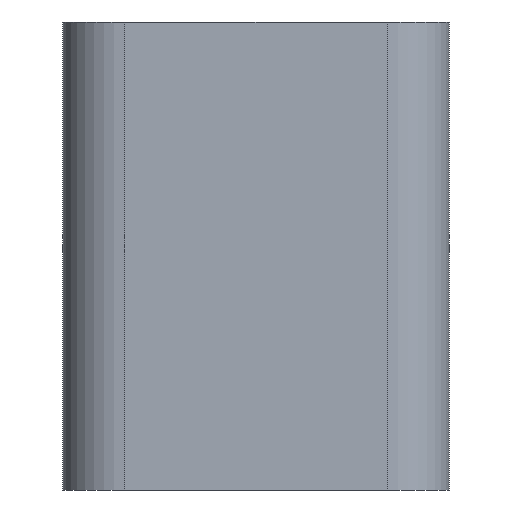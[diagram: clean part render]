
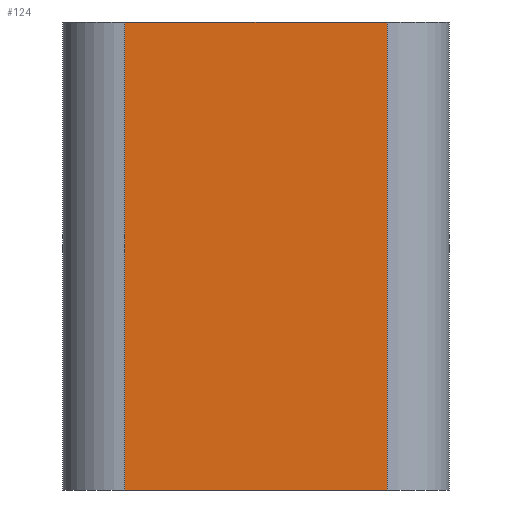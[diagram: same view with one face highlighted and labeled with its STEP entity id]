
A CAD part, front view. The second image highlights one B-rep face of the part: STEP entity #124.
In plain terms, the highlighted planar face has unit normal (0, -1, 0).
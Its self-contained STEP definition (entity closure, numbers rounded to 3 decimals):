
#82 = EDGE_CURVE ( 'NONE', #307, #295, #411, .T. ) ;
#119 = CARTESIAN_POINT ( 'NONE',  ( 6.22, 60.864, 7.5 ) ) ;
#124 = ADVANCED_FACE ( 'NONE', ( #881 ), #451, .F. ) ;
#132 = CARTESIAN_POINT ( 'NONE',  ( 7.22, 60.864, 0. ) ) ;
#156 = VECTOR ( 'NONE', #667, 1000. ) ;
#167 = EDGE_LOOP ( 'NONE', ( #793, #337, #921, #833 ) ) ;
#253 = DIRECTION ( 'NONE',  ( 0., 0., 1. ) ) ;
#295 = VERTEX_POINT ( 'NONE', #581 ) ;
#307 = VERTEX_POINT ( 'NONE', #934 ) ;
#333 = VERTEX_POINT ( 'NONE', #976 ) ;
#337 = ORIENTED_EDGE ( 'NONE', *, *, #82, .T. ) ;
#411 = LINE ( 'NONE', #119, #455 ) ;
#426 = CARTESIAN_POINT ( 'NONE',  ( 7.22, 60.864, 7.5 ) ) ;
#451 = PLANE ( 'NONE',  #764 ) ;
#455 = VECTOR ( 'NONE', #980, 1000. ) ;
#458 = EDGE_CURVE ( 'NONE', #845, #333, #1003, .T. ) ;
#460 = CARTESIAN_POINT ( 'NONE',  ( 2.02, 60.864, 7.5 ) ) ;
#462 = CARTESIAN_POINT ( 'NONE',  ( 7.22, 60.864, 7.5 ) ) ;
#519 = LINE ( 'NONE', #132, #156 ) ;
#520 = EDGE_CURVE ( 'NONE', #845, #295, #665, .T. ) ;
#529 = DIRECTION ( 'NONE',  ( 0., 1., 0. ) ) ;
#581 = CARTESIAN_POINT ( 'NONE',  ( 6.22, 60.864, 7.5 ) ) ;
#623 = DIRECTION ( 'NONE',  ( 0., 0., -1. ) ) ;
#646 = VECTOR ( 'NONE', #779, 1000. ) ;
#665 = LINE ( 'NONE', #426, #646 ) ;
#667 = DIRECTION ( 'NONE',  ( 1., 0., 0. ) ) ;
#764 = AXIS2_PLACEMENT_3D ( 'NONE', #462, #529, #253 ) ;
#779 = DIRECTION ( 'NONE',  ( 1., 0., 0. ) ) ;
#793 = ORIENTED_EDGE ( 'NONE', *, *, #942, .T. ) ;
#833 = ORIENTED_EDGE ( 'NONE', *, *, #458, .T. ) ;
#845 = VERTEX_POINT ( 'NONE', #932 ) ;
#881 = FACE_OUTER_BOUND ( 'NONE', #167, .T. ) ;
#921 = ORIENTED_EDGE ( 'NONE', *, *, #520, .F. ) ;
#932 = CARTESIAN_POINT ( 'NONE',  ( 2.02, 60.864, 7.5 ) ) ;
#934 = CARTESIAN_POINT ( 'NONE',  ( 6.22, 60.864, 0. ) ) ;
#942 = EDGE_CURVE ( 'NONE', #333, #307, #519, .T. ) ;
#976 = CARTESIAN_POINT ( 'NONE',  ( 2.02, 60.864, 0. ) ) ;
#980 = DIRECTION ( 'NONE',  ( 0., 0., 1. ) ) ;
#1003 = LINE ( 'NONE', #460, #1019 ) ;
#1019 = VECTOR ( 'NONE', #623, 1000. ) ;
